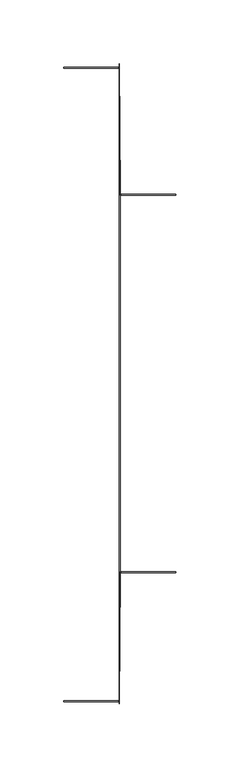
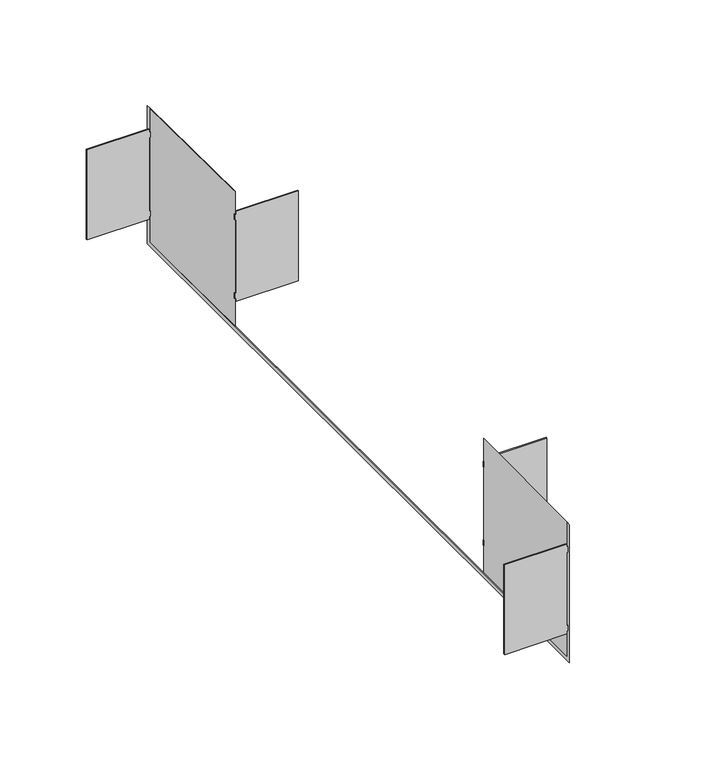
"""IFC4 building model written with IfcOpenShell, lengths in millimetres: cable carrier fitting geometry, REWT_Angle Reducer-Basorcanal : Basorcanal REWT 100x100."""

from ifc_helpers import new_model, si_unit, frame, origin, place, context, project, spatial, polyline, outline, extrude, faceted_brep, source, transform, mapped, element, save


def cable_carrier_fitting_292abf4f(model_context):
    return source(origin(), model_context, "Body", "SolidModel", [
        extrude(outline(polyline([(35.04, 44.0), (35.04, 1.6), (33.04, 1.6), (33.04, 0.8), (29.04, 0.8), (29.04, 1.6), (2.54, 1.6), (-23.96, 1.6), (-23.96, 0.8), (-27.96, 0.8), (-27.96, 1.6), (-29.96, 1.6), (-29.96, 44.0), (35.04, 44.0)])), frame((0.0, 147.46, 0.0), z_axis=(0.0, 1.0, 0.0), x_axis=(0.0, 0.0, 1.0)), (0.0, 0.0, 1.0), 0.8),
        extrude(outline(polyline([(35.04, -43.2), (-29.96, -43.2), (-29.96, -0.8), (-27.96, -0.8), (-27.96, 0.0), (-23.96, 0.0), (-23.96, -0.8), (2.54, -0.8), (29.04, -0.8), (29.04, 0.0), (33.04, 0.0), (33.04, -0.8), (35.04, -0.8), (35.04, -43.2)])), frame((0.0, -248.26, 0.0), z_axis=(0.0, 1.0, 0.0), x_axis=(0.0, 0.0, 1.0)), (0.0, 0.0, 1.0), 0.8),
        extrude(outline(polyline([(35.04, -43.2), (-29.96, -43.2), (-29.96, -0.8), (-27.96, -0.8), (-27.96, 0.0), (-23.96, 0.0), (-23.96, -0.8), (2.54, -0.8), (29.04, -0.8), (29.04, 0.0), (33.04, 0.0), (33.04, -0.8), (35.04, -0.8), (35.04, -43.2)])), frame((0.0, 246.66, 0.0), z_axis=(0.0, 1.0, 0.0), x_axis=(0.0, 0.0, 1.0)), (0.0, 0.0, 1.0), 0.8),
        extrude(outline(polyline([(35.04, 44.0), (35.04, 1.6), (33.04, 1.6), (33.04, 0.8), (29.04, 0.8), (29.04, 1.6), (2.54, 1.6), (-23.96, 1.6), (-23.96, 0.8), (-27.96, 0.8), (-27.96, 1.6), (-29.96, 1.6), (-29.96, 44.0), (35.04, 44.0)])), frame((0.0, -147.46, 0.0), z_axis=(0.0, 1.0, 0.0), x_axis=(0.0, 0.0, 1.0)), (0.0, 0.0, 1.0), 0.8),
        faceted_brep([(0.8, -150.0, -50.0), (0.8, 150.0, -50.0), (0.8, 150.0, 50.0), (0.8, 147.46, 50.0), (0.8, 147.46, -47.46), (0.8, -147.46, -47.46), (0.8, -147.46, 50.0), (0.8, -150.0, 50.0), (0.0, -250.0, -50.0), (0.0, -250.0, 50.0), (0.0, -247.46, 50.0), (0.0, -247.46, -47.46), (0.0, 247.46, -47.46), (0.0, 247.46, 50.0), (0.0, 250.0, 50.0), (0.0, 250.0, -50.0)], [[[0, 1, 2, 3, 4, 5, 6, 7]], [[8, 9, 10, 11, 12, 13, 14, 15]], [[8, 15, 1, 0]], [[15, 14, 2, 1]], [[14, 13, 3, 2]], [[13, 12, 4, 3]], [[12, 11, 5, 4]], [[11, 10, 6, 5]], [[10, 9, 7, 6]], [[9, 8, 0, 7]]]),
    ])


if __name__ == "__main__":
    model = new_model("IFC4")
    model_context = context("Model", 3, world=origin())
    ifc_project = project(units=[si_unit("LENGTHUNIT", "METRE", prefix="MILLI")], contexts=[model_context])
    site = spatial("IfcSite", under=ifc_project)
    building = spatial("IfcBuilding", under=site)
    placement = place(None, origin())
    cable_carrier_fitting_shape = cable_carrier_fitting_292abf4f(model_context)
    element("IfcCableCarrierFitting", 1, ObjectType="REWT_Angle Reducer-Basorcanal : Basorcanal REWT 100x100", at=placement, inside=building, context=model_context, shape_type="MappedRepresentation", body=[
        mapped(cable_carrier_fitting_shape, transform((0.0, 0.0, 0.0), x_axis=(1.0, 0.0, 0.0), y_axis=(0.0, 1.0, 0.0), z_axis=(0.0, 0.0, 1.0))),
    ])
    save(model, "model.ifc")
